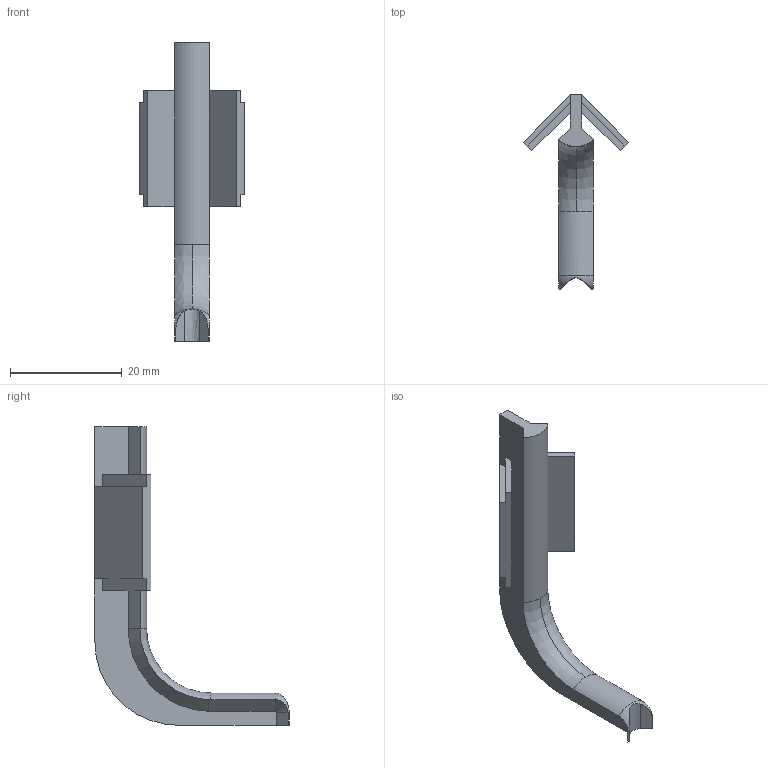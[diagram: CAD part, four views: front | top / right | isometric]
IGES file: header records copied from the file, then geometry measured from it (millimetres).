
Start section: Data from Parasolid IGES Translator 15.0.47, Copyright(c) 2006 Siemens P LM Software. All Rights Reserved.
Global section: file name: 9210117.igs; native system:  By UGS Corp.; preprocessor: XPlus GENERIC/IGES 3.0; author: Noname; organization: Noname; date: 20160315.183407; units: millimetre
Bounding box: 18.97 x 34.8 x 53.5 mm (x, y, z)
Surface area: 2856.3 mm2 (no closed solid volume)
Topology: 0 solids, 0 shells, 54 faces, 288 edges, 288 vertices
Faces by surface type: extrusion 39, revolution 15
